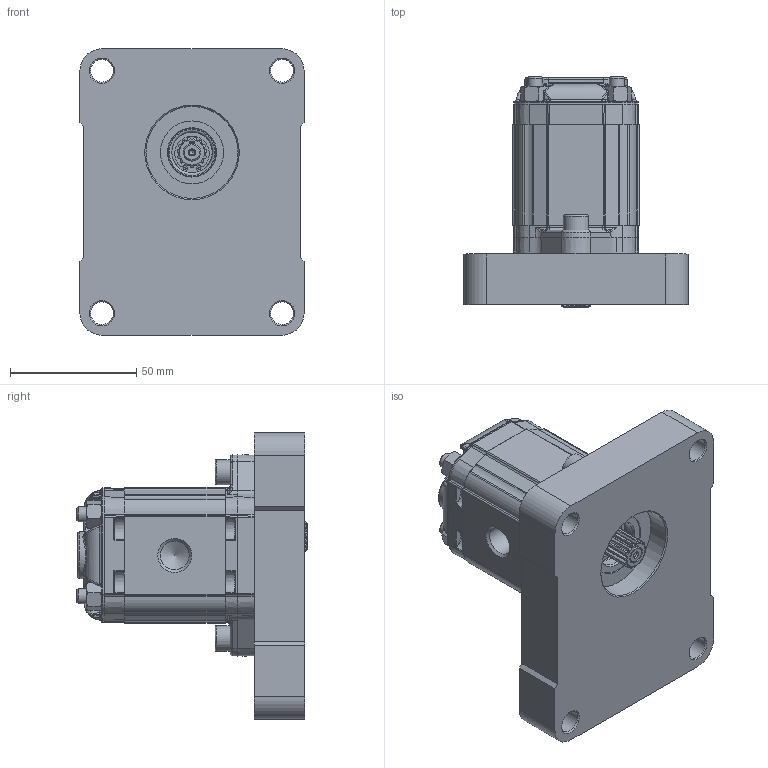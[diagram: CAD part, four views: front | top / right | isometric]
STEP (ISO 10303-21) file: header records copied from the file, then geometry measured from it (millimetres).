
FILE_DESCRIPTION(/* description */ ('Unknown'),/* implementation_level */ '2;1');
FILE_NAME(/* name */ 'X0F1141GBBA',/* time_stamp */ '2026-05-25T17:15:14+02:00',/* author */ ('Unknown'),/* organization */ ('Unknown'),/* preprocessor_version */ 'ST-DEVELOPER v16.7',/* originating_system */ 'Solid Edge',/* authorisation */ 'Unknown');
FILE_SCHEMA (('AUTOMOTIVE_DESIGN {1 0 10303 214 3 1 1}'));
Products named in the file (5): X0F1141GBBA; X0F41; 0G; X0BBH40; XF004-A
Assembly tree (4 placements, depth 2):
  X0F1141GBBA
    X0F41
    0G
    X0BBH40
    XF004-A
Bounding box: 89 x 91.3 x 113.7 mm (x, y, z)
Volume: 335498.6 mm3; surface area: 70621.3 mm2
Topology: 5 solids, 19 shells, 2682 faces, 6551 edges, 3900 vertices
Faces by surface type: cylinder 836, plane 683, bspline 547, cone 338, torus 200, sphere 78
Full cylindrical faces by diameter (mm): 1.053 x2, 2 x1, 5 x2, 6 x10, 6.01 x4, 6.5 x4, 6.518 x4, 6.545 x2, 7.5 x2, 7.92 x1, 8 x2, 9 x4, 9.318 x1, 10 x6, 10.445 x1, 11 x1, 11.445 x2, 13 x1, 14 x1, 16 x1, 16.2 x1, 16.8 x1, 19 x1, 22 x2, 25 x1, 25.303 x1, 25.5 x1, 36.5 x1
Entity records: 161604 total; most frequent: CARTESIAN_POINT 84764, ORIENTED_EDGE 12452, DIRECTION 11260, EDGE_CURVE 6226, AXIS2_PLACEMENT_3D 4597, VERTEX_POINT 3823, FACE_BOUND 3001, EDGE_LOOP 2996
